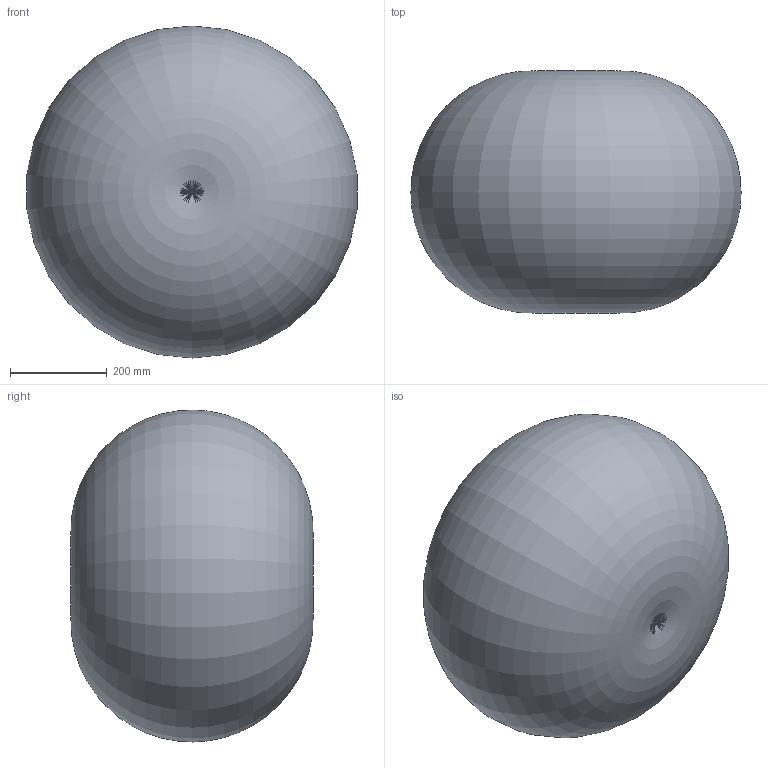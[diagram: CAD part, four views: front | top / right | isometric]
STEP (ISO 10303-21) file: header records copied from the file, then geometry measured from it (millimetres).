
FILE_DESCRIPTION(/* description */ ('Alibre Inc.'),/* implementation_level */ '2;1');
FILE_NAME(/* name */ 'export0',/* time_stamp */ '2010-12-06T11:07:30-05:00',/* author */ (''),/* organization */ (''),/* preprocessor_version */ 'ST-DEVELOPER v10',/* originating_system */ 'Alibre',/* authorisation */ '');
FILE_SCHEMA (('AUTOMOTIVE_DESIGN'));
Length unit declared in the file: centimetre
Bounding box: 681.46 x 499.82 x 685.21 mm (x, y, z)
Volume: 114934911.2 mm3; surface area: 2030860.7 mm2
Topology: 5 solids, 5 shells, 325 faces, 760 edges, 464 vertices
Faces by surface type: plane 115, cone 111, cylinder 69, torus 26, sphere 4
Full cylindrical faces by diameter (mm): 9.525 x1
Entity records: 7509 total; most frequent: CARTESIAN_POINT 2172, ORIENTED_EDGE 1042, DIRECTION 1032, EDGE_CURVE 521, AXIS2_PLACEMENT_3D 460, VERTEX_POINT 344, EDGE_LOOP 317, FACE_BOUND 317
